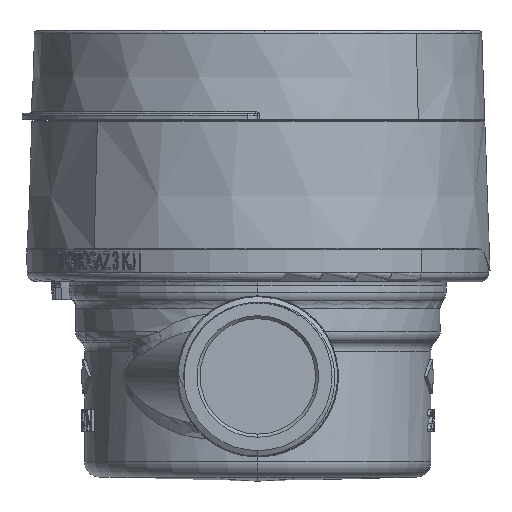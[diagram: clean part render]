
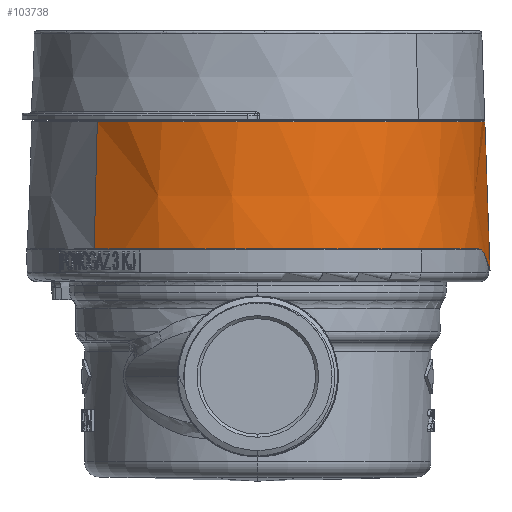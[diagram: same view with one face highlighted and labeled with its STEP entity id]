
A CAD part, left-side view. The second image highlights one B-rep face of the part: STEP entity #103738.
In plain terms, the highlighted conical face has half-angle 2 degrees and reference radius 37.9 mm.
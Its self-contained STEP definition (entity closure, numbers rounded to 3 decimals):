
#883 = EDGE_CURVE ( 'NONE', #124676, #146882, #85384, .T. ) ;
#3461 = VERTEX_POINT ( 'NONE', #6670 ) ;
#5335 = EDGE_CURVE ( 'NONE', #146882, #111361, #8992, .T. ) ;
#6670 = CARTESIAN_POINT ( 'NONE',  ( 27.019, 0.002, 27.019 ) ) ;
#8992 = CIRCLE ( 'NONE', #116173, 38.089 ) ;
#9471 = AXIS2_PLACEMENT_3D ( 'NONE', #65489, #64728, #146822 ) ;
#10065 = CARTESIAN_POINT ( 'NONE',  ( -37.357, 24.457, 0. ) ) ;
#12592 = DIRECTION ( 'NONE',  ( 0., -1., 0. ) ) ;
#13138 = VERTEX_POINT ( 'NONE', #47081 ) ;
#13357 = CARTESIAN_POINT ( 'NONE',  ( 0., 8.9, 0. ) ) ;
#16452 = EDGE_CURVE ( 'NONE', #13138, #124676, #61755, .T. ) ;
#17491 = VERTEX_POINT ( 'NONE', #96251 ) ;
#23415 = DIRECTION ( 'NONE',  ( 0., -1., 0. ) ) ;
#24579 = DIRECTION ( 'NONE',  ( 0., 1., 0. ) ) ;
#27367 = FACE_OUTER_BOUND ( 'NONE', #139430, .T. ) ;
#28389 = CARTESIAN_POINT ( 'NONE',  ( 25.124, 0.354, 28.775 ) ) ;
#31761 = EDGE_CURVE ( 'NONE', #98160, #3461, #114989, .T. ) ;
#33332 = ORIENTED_EDGE ( 'NONE', *, *, #150267, .T. ) ;
#36915 = CARTESIAN_POINT ( 'NONE',  ( 18.424, 3.482, 33.338 ) ) ;
#39198 = CARTESIAN_POINT ( 'NONE',  ( 17.892, 3.5, 33.624 ) ) ;
#41420 = ORIENTED_EDGE ( 'NONE', *, *, #125606, .T. ) ;
#47081 = CARTESIAN_POINT ( 'NONE',  ( 0., 24.457, 37.357 ) ) ;
#47486 = B_SPLINE_CURVE_WITH_KNOTS ( 'NONE', 3,
 ( #96197, #143916, #36915, #84510, #61039, #108705, #49359, #117386 ),
 .UNSPECIFIED., .F., .F.,
 ( 4, 2, 2, 4 ),
 ( 0.008, 0.009, 0.01, 0.012 ),
 .UNSPECIFIED. ) ;
#49359 = CARTESIAN_POINT ( 'NONE',  ( 20.432, 2.962, 32.172 ) ) ;
#50345 = CARTESIAN_POINT ( 'NONE',  ( 24.17, 0.804, 29.559 ) ) ;
#50998 = CARTESIAN_POINT ( 'NONE',  ( 27.019, 0.002, 27.019 ) ) ;
#51472 = DIRECTION ( 'NONE',  ( -1., 0., 0. ) ) ;
#51717 = CARTESIAN_POINT ( 'NONE',  ( -37.9, 8.9, 0. ) ) ;
#56188 = EDGE_CURVE ( 'NONE', #98160, #13138, #86542, .T. ) ;
#61039 = CARTESIAN_POINT ( 'NONE',  ( 19.201, 3.361, 32.902 ) ) ;
#61755 = CIRCLE ( 'NONE', #9471, 37.357 ) ;
#62672 = DIRECTION ( 'NONE',  ( -0.035, -0.999, 0. ) ) ;
#63528 = EDGE_CURVE ( 'NONE', #111361, #140752, #47486, .T. ) ;
#64728 = DIRECTION ( 'NONE',  ( 0., -1., 0. ) ) ;
#65489 = CARTESIAN_POINT ( 'NONE',  ( 0., 24.457, 0. ) ) ;
#70438 = ORIENTED_EDGE ( 'NONE', *, *, #31761, .F. ) ;
#71612 = AXIS2_PLACEMENT_3D ( 'NONE', #130367, #23415, #103035 ) ;
#73804 = CARTESIAN_POINT ( 'NONE',  ( 23.119, 1.41, 30.391 ) ) ;
#78685 = AXIS2_PLACEMENT_3D ( 'NONE', #13357, #12592, #51472 ) ;
#80698 =( BOUNDED_CURVE ( )  B_SPLINE_CURVE ( 3, ( #145689, #98700, #73804, #50345 ),
 .UNSPECIFIED., .F., .T. ) 
 B_SPLINE_CURVE_WITH_KNOTS ( ( 4, 4 ),
 ( 5.276, 5.382 ),
 .UNSPECIFIED. ) 
 CURVE ( )  GEOMETRIC_REPRESENTATION_ITEM ( )  RATIONAL_B_SPLINE_CURVE ( ( 1., 0.999, 0.999, 1. ) ) 
 REPRESENTATION_ITEM ( '' )  );
#83406 = CARTESIAN_POINT ( 'NONE',  ( 20.892, 2.696, 31.881 ) ) ;
#84510 = CARTESIAN_POINT ( 'NONE',  ( 18.945, 3.413, 33.047 ) ) ;
#85384 = LINE ( 'NONE', #51717, #114185 ) ;
#86542 = CIRCLE ( 'NONE', #71612, 37.357 ) ;
#90302 = CARTESIAN_POINT ( 'NONE',  ( 24.17, 0.804, 29.559 ) ) ;
#93814 = DIRECTION ( 'NONE',  ( 0.025, -0.999, 0.025 ) ) ;
#93857 = ORIENTED_EDGE ( 'NONE', *, *, #16452, .T. ) ;
#96197 = CARTESIAN_POINT ( 'NONE',  ( 17.892, 3.5, 33.624 ) ) ;
#96251 = CARTESIAN_POINT ( 'NONE',  ( 24.17, 0.804, 29.559 ) ) ;
#98160 = VERTEX_POINT ( 'NONE', #127549 ) ;
#98700 = CARTESIAN_POINT ( 'NONE',  ( 22.026, 2.042, 31.166 ) ) ;
#99378 = CARTESIAN_POINT ( 'NONE',  ( 26.553, 0.014, 27.485 ) ) ;
#100136 = CARTESIAN_POINT ( 'NONE',  ( 26.08, 0.079, 27.93 ) ) ;
#101684 = CARTESIAN_POINT ( 'NONE',  ( 24.642, 0.552, 29.18 ) ) ;
#103035 = DIRECTION ( 'NONE',  ( 1., 0., 0. ) ) ;
#103499 = CARTESIAN_POINT ( 'NONE',  ( -38.089, 3.5, 0. ) ) ;
#103738 = ADVANCED_FACE ( 'NONE', ( #27367 ), #146103, .T. ) ;
#105461 = B_SPLINE_CURVE_WITH_KNOTS ( 'NONE', 3,
 ( #90302, #135408, #101684, #28389, #125977, #100136, #99378, #50998 ),
 .UNSPECIFIED., .F., .F.,
 ( 4, 2, 2, 4 ),
 ( 0.012, 0.013, 0.014, 0.016 ),
 .UNSPECIFIED. ) ;
#105965 = VECTOR ( 'NONE', #93814, 1000. ) ;
#108705 = CARTESIAN_POINT ( 'NONE',  ( 19.951, 3.159, 32.464 ) ) ;
#108836 = CARTESIAN_POINT ( 'NONE',  ( 0., 3.5, 0. ) ) ;
#111361 = VERTEX_POINT ( 'NONE', #39198 ) ;
#114185 = VECTOR ( 'NONE', #62672, 1000. ) ;
#114989 = LINE ( 'NONE', #115742, #105965 ) ;
#115247 = ORIENTED_EDGE ( 'NONE', *, *, #883, .T. ) ;
#115742 = CARTESIAN_POINT ( 'NONE',  ( 26.799, 8.9, 26.799 ) ) ;
#116173 = AXIS2_PLACEMENT_3D ( 'NONE', #108836, #24579, #143262 ) ;
#117386 = CARTESIAN_POINT ( 'NONE',  ( 20.892, 2.696, 31.881 ) ) ;
#124676 = VERTEX_POINT ( 'NONE', #10065 ) ;
#125606 = EDGE_CURVE ( 'NONE', #140752, #17491, #80698, .T. ) ;
#125977 = CARTESIAN_POINT ( 'NONE',  ( 25.364, 0.273, 28.568 ) ) ;
#127549 = CARTESIAN_POINT ( 'NONE',  ( 26.415, 24.457, 26.415 ) ) ;
#130367 = CARTESIAN_POINT ( 'NONE',  ( 0., 24.457, 0. ) ) ;
#133844 = ORIENTED_EDGE ( 'NONE', *, *, #5335, .T. ) ;
#135408 = CARTESIAN_POINT ( 'NONE',  ( 24.403, 0.669, 29.374 ) ) ;
#139398 = ORIENTED_EDGE ( 'NONE', *, *, #63528, .T. ) ;
#139430 = EDGE_LOOP ( 'NONE', ( #152823, #93857, #115247, #133844, #139398, #41420, #33332, #70438 ) ) ;
#140752 = VERTEX_POINT ( 'NONE', #83406 ) ;
#143262 = DIRECTION ( 'NONE',  ( -1., 0., 0. ) ) ;
#143916 = CARTESIAN_POINT ( 'NONE',  ( 18.157, 3.5, 33.484 ) ) ;
#145689 = CARTESIAN_POINT ( 'NONE',  ( 20.892, 2.696, 31.881 ) ) ;
#146103 = CONICAL_SURFACE ( 'NONE', #78685, 37.9, 0.035 ) ;
#146822 = DIRECTION ( 'NONE',  ( 1., 0., 0. ) ) ;
#146882 = VERTEX_POINT ( 'NONE', #103499 ) ;
#150267 = EDGE_CURVE ( 'NONE', #17491, #3461, #105461, .T. ) ;
#152823 = ORIENTED_EDGE ( 'NONE', *, *, #56188, .T. ) ;
